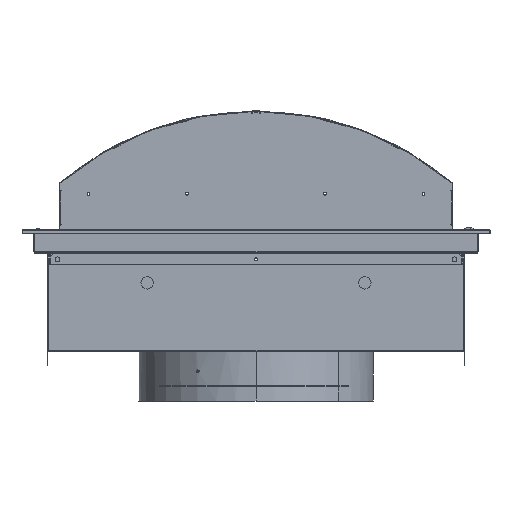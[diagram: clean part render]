
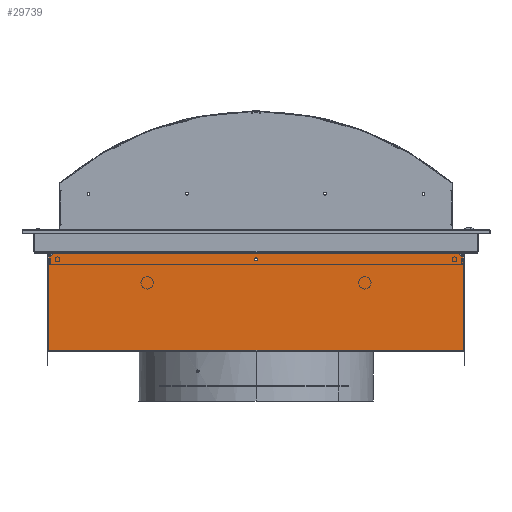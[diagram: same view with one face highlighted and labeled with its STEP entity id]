
A CAD part, left-side view. The second image highlights one B-rep face of the part: STEP entity #29739.
In plain terms, the highlighted planar face has unit normal (-1, 0, 0).
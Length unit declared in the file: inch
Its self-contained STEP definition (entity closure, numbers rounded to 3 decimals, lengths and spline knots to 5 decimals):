
#582 = CARTESIAN_POINT ( 'NONE',  ( -10.56225, 0., -1.204 ) ) ;
#671 = CARTESIAN_POINT ( 'NONE',  ( -10.56225, 0.075, -1.5796 ) ) ;
#908 = EDGE_CURVE ( 'NONE', #30023, #38378, #2190, .T. ) ;
#2004 = AXIS2_PLACEMENT_3D ( 'NONE', #17384, #54430, #44213 ) ;
#2190 = CIRCLE ( 'NONE', #40522, 0.015 ) ;
#2435 = ORIENTED_EDGE ( 'NONE', *, *, #63406, .T. ) ;
#3935 = DIRECTION ( 'NONE',  ( 1., 0., 0. ) ) ;
#4096 = EDGE_CURVE ( 'NONE', #18545, #14663, #47465, .T. ) ;
#4422 = ORIENTED_EDGE ( 'NONE', *, *, #43766, .T. ) ;
#6396 = VECTOR ( 'NONE', #39443, 39.37008 ) ;
#7882 = CIRCLE ( 'NONE', #42801, 0.015 ) ;
#7917 = DIRECTION ( 'NONE',  ( 0., 0.707, 0.707 ) ) ;
#8066 = ORIENTED_EDGE ( 'NONE', *, *, #32134, .T. ) ;
#8358 = VERTEX_POINT ( 'NONE', #45760 ) ;
#9003 = AXIS2_PLACEMENT_3D ( 'NONE', #10364, #37195, #16031 ) ;
#9513 = VECTOR ( 'NONE', #7917, 39.37008 ) ;
#9703 = CARTESIAN_POINT ( 'NONE',  ( -10.56225, 10.27225, -1.203 ) ) ;
#10028 = VERTEX_POINT ( 'NONE', #671 ) ;
#10364 = CARTESIAN_POINT ( 'NONE',  ( -10.56225, 0., -1.091 ) ) ;
#11040 = VERTEX_POINT ( 'NONE', #32211 ) ;
#11654 = CARTESIAN_POINT ( 'NONE',  ( -10.56225, -10.26604, -1.203 ) ) ;
#11842 = ORIENTED_EDGE ( 'NONE', *, *, #22528, .F. ) ;
#12262 = CARTESIAN_POINT ( 'NONE',  ( -10.56225, 10.56225, -1.203 ) ) ;
#12464 = VERTEX_POINT ( 'NONE', #24836 ) ;
#12791 = ORIENTED_EDGE ( 'NONE', *, *, #43209, .T. ) ;
#13368 = CARTESIAN_POINT ( 'NONE',  ( -10.56225, -10.52225, -1.45921 ) ) ;
#14663 = VERTEX_POINT ( 'NONE', #40014 ) ;
#15317 = LINE ( 'NONE', #32551, #62852 ) ;
#15720 = CARTESIAN_POINT ( 'NONE',  ( -10.56225, 10.56225, -6.137 ) ) ;
#15889 = ORIENTED_EDGE ( 'NONE', *, *, #65670, .T. ) ;
#16031 = DIRECTION ( 'NONE',  ( 0., 0., -1. ) ) ;
#16306 = ORIENTED_EDGE ( 'NONE', *, *, #41816, .T. ) ;
#16756 = AXIS2_PLACEMENT_3D ( 'NONE', #44606, #45324, #55172 ) ;
#17184 = VERTEX_POINT ( 'NONE', #27798 ) ;
#17384 = CARTESIAN_POINT ( 'NONE',  ( -10.56225, 10.26604, -1.218 ) ) ;
#17452 = EDGE_LOOP ( 'NONE', ( #36616, #64268, #52049, #57241 ) ) ;
#17623 = DIRECTION ( 'NONE',  ( 0., 0., -1. ) ) ;
#17867 = DIRECTION ( 'NONE',  ( 0., 0., -1. ) ) ;
#17871 = DIRECTION ( 'NONE',  ( 0., 0., -1. ) ) ;
#18298 = VECTOR ( 'NONE', #40812, 39.37008 ) ;
#18396 = DIRECTION ( 'NONE',  ( 0., 1., 0. ) ) ;
#18545 = VERTEX_POINT ( 'NONE', #43340 ) ;
#18679 = CARTESIAN_POINT ( 'NONE',  ( -10.56225, 10.56225, -1.203 ) ) ;
#19948 = LINE ( 'NONE', #69322, #46869 ) ;
#20353 = LINE ( 'NONE', #24264, #18298 ) ;
#21091 = EDGE_CURVE ( 'NONE', #49434, #8358, #7882, .T. ) ;
#21427 = CIRCLE ( 'NONE', #9003, 0.113 ) ;
#21575 = VERTEX_POINT ( 'NONE', #43828 ) ;
#22528 = EDGE_CURVE ( 'NONE', #33314, #50951, #49339, .T. ) ;
#22592 = CARTESIAN_POINT ( 'NONE',  ( -10.56225, -10.51786, -1.44861 ) ) ;
#22826 = ORIENTED_EDGE ( 'NONE', *, *, #67437, .F. ) ;
#22954 = DIRECTION ( 'NONE',  ( -1., 0., 0. ) ) ;
#23184 = CARTESIAN_POINT ( 'NONE',  ( -10.56225, -10.26604, -1.218 ) ) ;
#24249 = LINE ( 'NONE', #9703, #41933 ) ;
#24264 = CARTESIAN_POINT ( 'NONE',  ( -10.56225, 10.52225, -6.137 ) ) ;
#24574 = CARTESIAN_POINT ( 'NONE',  ( -10.56225, 10.50725, -1.45921 ) ) ;
#24836 = CARTESIAN_POINT ( 'NONE',  ( -10.56225, -10.52225, -6.137 ) ) ;
#24899 = AXIS2_PLACEMENT_3D ( 'NONE', #68505, #3935, #25840 ) ;
#25840 = DIRECTION ( 'NONE',  ( 0., 0., -1. ) ) ;
#26121 = ORIENTED_EDGE ( 'NONE', *, *, #21091, .T. ) ;
#26662 = AXIS2_PLACEMENT_3D ( 'NONE', #23184, #66195, #17867 ) ;
#26759 = VECTOR ( 'NONE', #62049, 39.37008 ) ;
#26830 = EDGE_CURVE ( 'NONE', #12464, #21575, #64037, .T. ) ;
#27798 = CARTESIAN_POINT ( 'NONE',  ( -10.56225, -0.075, -1.5796 ) ) ;
#27809 = CIRCLE ( 'NONE', #26662, 0.015 ) ;
#27959 = CIRCLE ( 'NONE', #2004, 0.015 ) ;
#29165 = DIRECTION ( 'NONE',  ( -1., 0., 0. ) ) ;
#29346 = EDGE_CURVE ( 'NONE', #14663, #17184, #37321, .T. ) ;
#29739 = ADVANCED_FACE ( 'Face1', ( #36019, #30731 ), #52261, .F. ) ;
#30023 = VERTEX_POINT ( 'NONE', #13368 ) ;
#30731 = FACE_OUTER_BOUND ( 'NONE', #57969, .T. ) ;
#31756 = CARTESIAN_POINT ( 'NONE',  ( -10.56225, -10.27664, -1.20739 ) ) ;
#31779 = DIRECTION ( 'NONE',  ( 0., 0., -1. ) ) ;
#32134 = EDGE_CURVE ( 'NONE', #38378, #58527, #61208, .T. ) ;
#32211 = CARTESIAN_POINT ( 'NONE',  ( -10.56225, 0.015, -1.203 ) ) ;
#32551 = CARTESIAN_POINT ( 'NONE',  ( -10.56225, 0.075, -1.5046 ) ) ;
#33314 = VERTEX_POINT ( 'NONE', #69728 ) ;
#35169 = VECTOR ( 'NONE', #37570, 39.37008 ) ;
#36019 = FACE_BOUND ( 'NONE', #17452, .T. ) ;
#36395 = EDGE_CURVE ( 'NONE', #44817, #11040, #42650, .T. ) ;
#36616 = ORIENTED_EDGE ( 'NONE', *, *, #63269, .T. ) ;
#36960 = DIRECTION ( 'NONE',  ( 0., 0., -1. ) ) ;
#37195 = DIRECTION ( 'NONE',  ( 1., 0., 0. ) ) ;
#37321 = LINE ( 'NONE', #68734, #41056 ) ;
#37570 = DIRECTION ( 'NONE',  ( 0., 1., 0. ) ) ;
#37749 = DIRECTION ( 'NONE',  ( 1., 0., 0. ) ) ;
#37875 = ORIENTED_EDGE ( 'NONE', *, *, #36395, .T. ) ;
#38378 = VERTEX_POINT ( 'NONE', #22592 ) ;
#39443 = DIRECTION ( 'NONE',  ( 0., -1., 0. ) ) ;
#40014 = CARTESIAN_POINT ( 'NONE',  ( -10.56225, -0.075, -1.5046 ) ) ;
#40522 = AXIS2_PLACEMENT_3D ( 'NONE', #60327, #22954, #17623 ) ;
#40812 = DIRECTION ( 'NONE',  ( 0., 0., 1. ) ) ;
#41056 = VECTOR ( 'NONE', #36960, 39.37008 ) ;
#41263 = LINE ( 'NONE', #46601, #57279 ) ;
#41816 = EDGE_CURVE ( 'NONE', #45743, #49434, #24249, .T. ) ;
#41933 = VECTOR ( 'NONE', #63351, 39.37008 ) ;
#42650 = CIRCLE ( 'NONE', #16756, 0.113 ) ;
#42801 = AXIS2_PLACEMENT_3D ( 'NONE', #24574, #29165, #17871 ) ;
#43209 = EDGE_CURVE ( 'NONE', #12464, #30023, #19948, .T. ) ;
#43340 = CARTESIAN_POINT ( 'NONE',  ( -10.56225, 0.075, -1.5046 ) ) ;
#43766 = EDGE_CURVE ( 'NONE', #58527, #50951, #27809, .T. ) ;
#43828 = CARTESIAN_POINT ( 'NONE',  ( -10.56225, 10.52225, -6.137 ) ) ;
#44213 = DIRECTION ( 'NONE',  ( 0., 0., -1. ) ) ;
#44543 = EDGE_CURVE ( 'NONE', #68937, #11040, #51475, .T. ) ;
#44606 = CARTESIAN_POINT ( 'NONE',  ( -10.56225, 0., -1.091 ) ) ;
#44817 = VERTEX_POINT ( 'NONE', #582 ) ;
#45013 = CARTESIAN_POINT ( 'NONE',  ( -10.56225, -10.52225, -1.453 ) ) ;
#45324 = DIRECTION ( 'NONE',  ( 1., 0., 0. ) ) ;
#45743 = VERTEX_POINT ( 'NONE', #50904 ) ;
#45760 = CARTESIAN_POINT ( 'NONE',  ( -10.56225, 10.52225, -1.45921 ) ) ;
#46601 = CARTESIAN_POINT ( 'NONE',  ( -10.56225, 0.075, -1.5796 ) ) ;
#46869 = VECTOR ( 'NONE', #62972, 39.37008 ) ;
#47465 = CIRCLE ( 'NONE', #24899, 0.075 ) ;
#48018 = CARTESIAN_POINT ( 'NONE',  ( -10.56225, 0., 0. ) ) ;
#49339 = LINE ( 'NONE', #12262, #6396 ) ;
#49434 = VERTEX_POINT ( 'NONE', #67467 ) ;
#50904 = CARTESIAN_POINT ( 'NONE',  ( -10.56225, 10.27664, -1.20739 ) ) ;
#50951 = VERTEX_POINT ( 'NONE', #11654 ) ;
#51215 = AXIS2_PLACEMENT_3D ( 'NONE', #48018, #37749, #31779 ) ;
#51475 = LINE ( 'NONE', #18679, #26759 ) ;
#52049 = ORIENTED_EDGE ( 'NONE', *, *, #29346, .T. ) ;
#52261 = PLANE ( 'NONE',  #51215 ) ;
#52272 = ORIENTED_EDGE ( 'NONE', *, *, #44543, .F. ) ;
#52713 = DIRECTION ( 'NONE',  ( 0., 0., 1. ) ) ;
#54430 = DIRECTION ( 'NONE',  ( -1., 0., 0. ) ) ;
#55133 = CARTESIAN_POINT ( 'NONE',  ( -10.56225, 10.26604, -1.203 ) ) ;
#55172 = DIRECTION ( 'NONE',  ( 0., 0., -1. ) ) ;
#57241 = ORIENTED_EDGE ( 'NONE', *, *, #61804, .T. ) ;
#57279 = VECTOR ( 'NONE', #18396, 39.37008 ) ;
#57709 = ORIENTED_EDGE ( 'NONE', *, *, #908, .T. ) ;
#57969 = EDGE_LOOP ( 'NONE', ( #11842, #15889, #37875, #52272, #2435, #16306, #26121, #22826, #59778, #12791, #57709, #8066, #4422 ) ) ;
#58527 = VERTEX_POINT ( 'NONE', #31756 ) ;
#59778 = ORIENTED_EDGE ( 'NONE', *, *, #26830, .F. ) ;
#60327 = CARTESIAN_POINT ( 'NONE',  ( -10.56225, -10.50725, -1.45921 ) ) ;
#61208 = LINE ( 'NONE', #45013, #9513 ) ;
#61804 = EDGE_CURVE ( 'NONE', #17184, #10028, #41263, .T. ) ;
#62049 = DIRECTION ( 'NONE',  ( 0., -1., 0. ) ) ;
#62852 = VECTOR ( 'NONE', #52713, 39.37008 ) ;
#62972 = DIRECTION ( 'NONE',  ( 0., 0., 1. ) ) ;
#63269 = EDGE_CURVE ( 'NONE', #10028, #18545, #15317, .T. ) ;
#63351 = DIRECTION ( 'NONE',  ( 0., 0.707, -0.707 ) ) ;
#63406 = EDGE_CURVE ( 'NONE', #68937, #45743, #27959, .T. ) ;
#64037 = LINE ( 'NONE', #15720, #35169 ) ;
#64268 = ORIENTED_EDGE ( 'NONE', *, *, #4096, .T. ) ;
#65670 = EDGE_CURVE ( 'NONE', #33314, #44817, #21427, .T. ) ;
#66195 = DIRECTION ( 'NONE',  ( -1., 0., 0. ) ) ;
#67437 = EDGE_CURVE ( 'NONE', #21575, #8358, #20353, .T. ) ;
#67467 = CARTESIAN_POINT ( 'NONE',  ( -10.56225, 10.51786, -1.44861 ) ) ;
#68505 = CARTESIAN_POINT ( 'NONE',  ( -10.56225, 0., -1.5046 ) ) ;
#68734 = CARTESIAN_POINT ( 'NONE',  ( -10.56225, -0.075, -1.5796 ) ) ;
#68937 = VERTEX_POINT ( 'NONE', #55133 ) ;
#69322 = CARTESIAN_POINT ( 'NONE',  ( -10.56225, -10.52225, -6.137 ) ) ;
#69728 = CARTESIAN_POINT ( 'NONE',  ( -10.56225, -0.015, -1.203 ) ) ;
